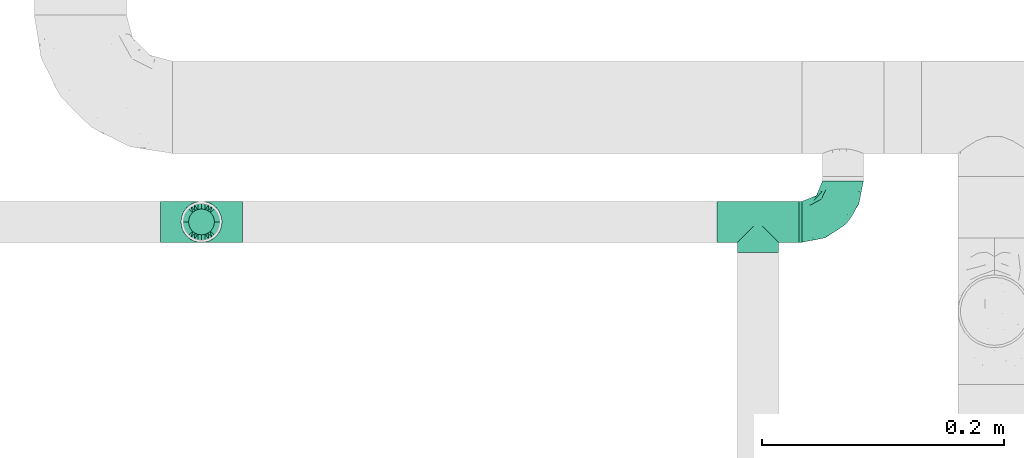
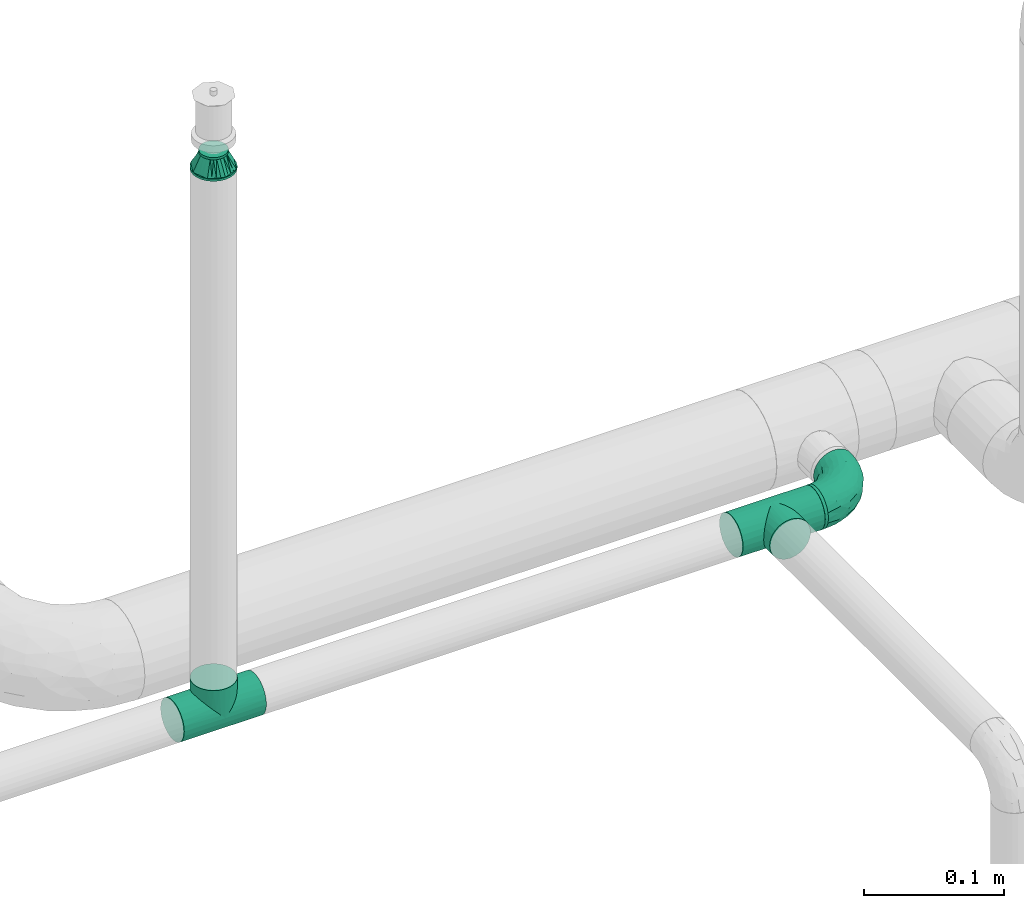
# One storey, part 108 of 157: 4 flow fittings, 1 flow segment.
"""IFC2X3 building model written with IfcOpenShell, lengths in millimetres."""

from ifc_helpers import new_model, entity, si_unit, converted_unit, derived_unit, direction, frame, origin_with_axes, origin_2d_with_axis, place, context, subcontext, project, spatial, hollow_circle, extrude, open_shell, surface_model, source, transform, mapped, type_object, element, save


model = new_model("IFC2X3")

# Units and contexts
model_context = context("Model", 3, precision=0.01, world=frame((0.0, 4.29681676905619e-09, 0.0)), true_north=direction((4.01073788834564e-13, 1.0)))
plan_context = context("Plan", 3, precision=0.01, world=frame((0.0, 4.29681676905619e-09, 0.0)), true_north=direction((4.01073788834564e-13, 1.0)))
body_context = subcontext(model_context, "Body", "Model", "MODEL_VIEW")
ifc_project = project(units=[converted_unit("PLANEANGLEUNIT", "DEGREE", entity("IfcPositiveLengthMeasure", 0.0174532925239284), si_unit("PLANEANGLEUNIT", "RADIAN"), dimensions=[0, 0, 0, 0, 0, 0, 0]), si_unit("AREAUNIT", "SQUARE_METRE"), si_unit("LENGTHUNIT", "METRE", prefix="MILLI"), si_unit("MASSUNIT", "GRAM", prefix="KILO"), si_unit("POWERUNIT", "WATT"), si_unit("PRESSUREUNIT", "PASCAL"), si_unit("FORCEUNIT", "NEWTON", prefix="KILO"), si_unit("ELECTRICCURRENTUNIT", "AMPERE"), si_unit("THERMODYNAMICTEMPERATUREUNIT", "DEGREE_CELSIUS"), si_unit("TIMEUNIT", "SECOND"), si_unit("VOLUMEUNIT", "CUBIC_METRE"), derived_unit("LINEARVELOCITYUNIT", [(si_unit("LENGTHUNIT", "METRE"), 1), (si_unit("TIMEUNIT", "SECOND"), -1)]), derived_unit("VOLUMETRICFLOWRATEUNIT", [(si_unit("VOLUMEUNIT", "CUBIC_METRE"), 1), (si_unit("TIMEUNIT", "SECOND"), -1)]), derived_unit("THERMALTRANSMITTANCEUNIT", [(si_unit("POWERUNIT", "WATT"), 1), (si_unit("THERMODYNAMICTEMPERATUREUNIT", "KELVIN"), -1), (si_unit("AREAUNIT", "SQUARE_METRE"), -1)])], contexts=[model_context, plan_context])

# Site, building, storey
site_placement = place(None, frame((0.0, -4.29681676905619e-09, 0.0), z_axis=(0.0, 0.0, 1.0), x_axis=(1.0, 0.0, 0.0)))
site = spatial("IfcSite", under=ifc_project, at=site_placement, CompositionType="ELEMENT")
building_placement = place(site_placement, frame((0.0, 4.29681676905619e-09, 0.0), z_axis=(0.0, 0.0, 1.0), x_axis=(1.0, 0.0, 0.0)))
building = spatial("IfcBuilding", under=site, at=building_placement, Name="mc-building", CompositionType="ELEMENT")
storey_placement = place(building_placement, frame((0.0, 0.0, 204000.0), z_axis=(0.0, 0.0, 1.0), x_axis=(1.0, 0.0, 0.0)))
storey = spatial("IfcBuildingStorey", under=building, at=storey_placement, Name="Nivå D", CompositionType="ELEMENT", Elevation=204000.0)

# Flow fittings
pipe_fitting_type_1 = type_object("IfcPipeFittingType", Name="magi_pipe_fe_tee_centric_90_NOR", PredefinedType="JUNCTION")
shared_shape_1 = source(origin_with_axes(), body_context, "Body", "SurfaceModel", [
    surface_model("IfcShellBasedSurfaceModel", [(-33.8, 4.37404, -16.32415), (-33.8, 0.0, -16.9), (-33.8, 16.32415, -4.37404), (-33.8, 8.45, -14.63583), (-33.8, 11.9501, -11.9501), (-33.8, 14.63583, -8.45), (-33.8, -16.9, 0.0), (-33.8, -11.9501, -11.9501), (-33.8, -14.63583, -8.45), (-33.8, -8.45, -14.63583), (-33.8, -4.37404, -16.32415), (-33.8, -16.32415, -4.37404), (-33.8, 14.63583, 8.45), (-33.8, 16.32415, 4.37404), (-33.8, -8.45, 14.63583), (-33.8, 8.45, 14.63583), (-33.8, 11.9501, 11.9501), (-33.8, 4.37404, 16.32415), (-33.8, 0.0, 16.9), (-33.8, -11.9501, 11.9501), (-33.8, -14.63583, 8.45), (-33.8, -16.32415, 4.37404), (-33.8, -4.37404, 16.32415), (-33.8, 16.9, 0.0), (33.8, 4.37404, -16.32415), (33.8, -16.9, 0.0), (33.8, 0.0, -16.9), (33.8, 14.63583, -8.45), (33.8, 8.45, -14.63583), (33.8, 16.32415, -4.37404), (33.8, 11.9501, -11.9501), (33.8, -16.32415, 4.37404), (33.8, -8.45, -14.63583), (33.8, -4.37404, -16.32415), (33.8, -11.9501, -11.9501), (33.8, -14.63583, -8.45), (33.8, -16.32415, -4.37404), (33.8, 16.32415, 4.37404), (33.8, 8.45, 14.63583), (33.8, 14.63583, 8.45), (33.8, 11.9501, 11.9501), (33.8, -8.45, 14.63583), (33.8, 4.37404, 16.32415), (33.8, -14.63583, 8.45), (33.8, -11.9501, 11.9501), (33.8, 0.0, 16.9), (33.8, -4.37404, 16.32415), (33.8, 16.9, 0.0), (16.28698, -16.28698, 4.51047), (16.9, -16.9, 0.0), (14.62704, -14.62704, 8.4652), (9.47213, -9.47213, 13.99602), (12.26343, -12.26343, 11.62834), (-16.9, -16.9, 0.0), (-16.28698, -16.28698, 4.51047), (-14.62704, -14.62704, 8.4652), (-12.26343, -12.26343, 11.62834), (-9.47213, -9.47213, 13.99602), (-6.42894, -6.42894, 15.62942), (6.42894, -6.42894, 15.62942), (3.24522, -3.24522, 16.58549), (0.0, 0.0, 16.9), (-3.24522, -3.24522, 16.58549), (3.24522, -3.24522, -16.58549), (0.0, 0.0, -16.9), (-3.24522, -3.24522, -16.58549), (-6.42894, -6.42894, -15.62942), (6.42894, -6.42894, -15.62942), (9.47213, -9.47213, -13.99602), (12.26343, -12.26343, -11.62834), (14.62704, -14.62704, -8.4652), (16.28698, -16.28698, -4.51047), (-9.47213, -9.47213, -13.99602), (-12.26343, -12.26343, -11.62834), (-16.28698, -16.28698, -4.51047), (-14.62704, -14.62704, -8.4652), (4.37404, -25.35, -16.32415), (-16.9, -25.35, 0.0), (0.0, -25.35, -16.9), (14.63583, -25.35, -8.45), (8.45, -25.35, -14.63583), (16.32415, -25.35, -4.37404), (11.9501, -25.35, -11.9501), (-11.9501, -25.35, -11.9501), (-8.45, -25.35, -14.63583), (-4.37404, -25.35, -16.32415), (-14.63583, -25.35, -8.45), (-16.32415, -25.35, -4.37404), (16.9, -25.35, 0.0), (8.45, -25.35, 14.63583), (16.32415, -25.35, 4.37404), (14.63583, -25.35, 8.45), (-8.45, -25.35, 14.63583), (11.9501, -25.35, 11.9501), (4.37404, -25.35, 16.32415), (-16.32415, -25.35, 4.37404), (-11.9501, -25.35, 11.9501), (-14.63583, -25.35, 8.45), (0.0, -25.35, 16.9), (-4.37404, -25.35, 16.32415)], [open_shell([[[0, 1, 2]], [[3, 0, 4]], [[0, 2, 5]], [[4, 0, 5]], [[6, 2, 1]], [[7, 8, 9]], [[1, 10, 9]], [[11, 6, 8]], [[1, 9, 8]], [[1, 8, 6]], [[6, 12, 2]], [[12, 13, 2]], [[14, 12, 6]], [[12, 14, 15]], [[16, 12, 15]], [[17, 15, 18]], [[19, 14, 20]], [[21, 20, 14]], [[22, 18, 14]], [[14, 6, 21]], [[14, 18, 15]], [[23, 2, 13]], [[24, 25, 26]], [[27, 24, 28]], [[27, 29, 24]], [[27, 28, 30]], [[31, 25, 24]], [[26, 32, 33]], [[26, 34, 32]], [[35, 25, 36]], [[35, 34, 26]], [[25, 35, 26]], [[24, 29, 31]], [[29, 37, 38]], [[38, 37, 39]], [[38, 31, 29]], [[38, 39, 40]], [[41, 38, 42]], [[43, 41, 44]], [[41, 43, 31]], [[41, 45, 46]], [[41, 31, 38]], [[42, 45, 41]], [[29, 47, 37]], [[31, 43, 48]], [[25, 31, 49]], [[49, 31, 48]], [[43, 50, 48]], [[44, 41, 51]], [[50, 43, 52]], [[51, 52, 44]], [[52, 43, 44]], [[53, 54, 21]], [[53, 21, 6]], [[21, 54, 20]], [[54, 55, 20]], [[56, 57, 19]], [[19, 20, 56]], [[19, 57, 14]], [[56, 20, 55]], [[14, 57, 58]], [[51, 41, 59]], [[60, 45, 61]], [[59, 46, 60]], [[46, 59, 41]], [[60, 46, 45]], [[61, 45, 42]], [[39, 37, 13]], [[16, 38, 40]], [[12, 40, 39]], [[42, 38, 15]], [[23, 37, 47]], [[62, 61, 18]], [[62, 22, 58]], [[22, 62, 18]], [[58, 22, 14]], [[61, 17, 18]], [[42, 17, 61]], [[15, 17, 42]], [[15, 38, 16]], [[12, 16, 40]], [[13, 12, 39]], [[37, 23, 13]], [[5, 27, 30]], [[23, 47, 29]], [[30, 28, 3]], [[27, 2, 29]], [[26, 33, 63]], [[26, 64, 24]], [[64, 26, 63]], [[28, 24, 0]], [[64, 0, 24]], [[4, 30, 3]], [[2, 27, 5]], [[5, 30, 4]], [[2, 23, 29]], [[65, 66, 10]], [[1, 0, 64]], [[1, 65, 10]], [[66, 9, 10]], [[0, 3, 28]], [[1, 64, 65]], [[63, 33, 67]], [[32, 34, 68]], [[69, 68, 34]], [[35, 70, 69]], [[69, 34, 35]], [[32, 68, 67]], [[36, 25, 49]], [[36, 71, 35]], [[71, 36, 49]], [[35, 71, 70]], [[72, 9, 66]], [[72, 7, 9]], [[7, 72, 73]], [[7, 73, 8]], [[74, 53, 11]], [[75, 74, 8]], [[74, 11, 8]], [[11, 53, 6]], [[75, 8, 73]], [[32, 67, 33]], [[76, 77, 78]], [[79, 76, 80]], [[79, 81, 76]], [[79, 80, 82]], [[77, 76, 81]], [[78, 83, 84]], [[84, 85, 78]], [[86, 77, 87]], [[83, 78, 86]], [[77, 86, 78]], [[81, 88, 77]], [[89, 88, 90]], [[89, 90, 91]], [[92, 77, 89]], [[89, 91, 93]], [[92, 89, 94]], [[95, 96, 97]], [[96, 95, 92]], [[92, 98, 99]], [[95, 77, 92]], [[94, 98, 92]], [[89, 77, 88]], [[77, 95, 53]], [[54, 53, 95]], [[97, 96, 56]], [[96, 92, 57]], [[95, 97, 54]], [[58, 92, 99]], [[55, 54, 97]], [[56, 55, 97]], [[58, 57, 92]], [[98, 61, 62]], [[58, 99, 62]], [[56, 96, 57]], [[62, 99, 98]], [[94, 60, 98]], [[89, 59, 94]], [[91, 90, 48]], [[52, 93, 91]], [[93, 51, 89]], [[49, 90, 88]], [[59, 60, 94]], [[51, 59, 89]], [[49, 48, 90]], [[50, 52, 91]], [[48, 50, 91]], [[51, 93, 52]], [[98, 60, 61]], [[88, 81, 49]], [[71, 49, 81]], [[79, 82, 69]], [[82, 80, 68]], [[81, 79, 71]], [[67, 80, 76]], [[70, 71, 79]], [[69, 70, 79]], [[67, 68, 80]], [[78, 64, 63]], [[67, 76, 63]], [[69, 82, 68]], [[63, 76, 78]], [[85, 65, 78]], [[84, 66, 85]], [[86, 87, 74]], [[86, 73, 83]], [[72, 84, 83]], [[53, 87, 77]], [[66, 65, 85]], [[72, 66, 84]], [[53, 74, 87]], [[75, 73, 86]], [[74, 75, 86]], [[72, 83, 73]], [[78, 65, 64]]])]),
])
for number, where, z_axis, x_axis, name in (
    (1, (524040.35, 413944.735, 2690.0), (0.0, -1.0, 0.0), (-1.0, 0.0, 0.0), "magi_pipe_fe_tee_centric_90_NOR"),
    (2, (524500.0, 413944.735, 2690.0), (0.0, 0.0, -1.0), (-1.0, 0.0, 0.0), "magi_pipe_fe_tee_centric_90_NOR"),
):
    element("IfcFlowFitting", number, at=place(storey_placement, frame(where, z_axis=z_axis, x_axis=x_axis)), inside=storey, type_object=pipe_fitting_type_1, Name=name, context=body_context, shape_type="MappedRepresentation", body=[
        mapped(shared_shape_1, transform((0.0, 0.0, 0.0), scale=1.0)),
    ])
pipe_fitting_type_2 = type_object("IfcPipeFittingType", Name="magi_pipe_fe_elbow_short_001", PredefinedType="BEND")
shared_shape_2 = source(origin_with_axes(), body_context, "Body", "SurfaceModel", [
    surface_model("IfcShellBasedSurfaceModel", [(-33.8, 8.45, -14.63583), (-33.8, 4.37404, -16.32415), (-33.8, 11.9501, -11.9501), (-33.8, -11.9501, -11.9501), (-33.8, -14.63583, -8.45), (-33.8, -8.45, -14.63583), (-33.8, 0.0, -16.9), (-33.8, -4.37404, -16.32415), (-33.8, -4.37404, 16.32415), (-33.8, 0.0, 16.9), (-33.8, -8.45, 14.63583), (-33.8, 16.32415, -4.37404), (-33.8, 14.63583, -8.45), (-33.8, -16.32415, -4.37404), (-33.8, -16.9, 0.0), (-33.8, -16.32415, 4.37404), (-33.8, 11.9501, 11.9501), (-33.8, 14.63583, 8.45), (-33.8, 16.32415, 4.37404), (-33.8, 4.37404, 16.32415), (-33.8, 8.45, 14.63583), (-33.8, -14.63583, 8.45), (-33.8, -11.9501, 11.9501), (-33.8, 16.9, 0.0), (-11.9501, 33.8, -11.9501), (0.0, 33.8, -16.9), (-4.37404, 33.8, -16.32415), (-8.45, 33.8, -14.63583), (-14.63583, 33.8, -8.45), (-16.32415, 33.8, -4.37404), (14.63583, 33.8, -8.45), (8.45, 33.8, 14.63583), (16.32415, 33.8, -4.37404), (8.45, 33.8, -14.63583), (11.9501, 33.8, -11.9501), (4.37404, 33.8, -16.32415), (16.32415, 33.8, 4.37404), (16.9, 33.8, 0.0), (-11.9501, 33.8, 11.9501), (-16.32415, 33.8, 4.37404), (-14.63583, 33.8, 8.45), (-8.45, 33.8, 14.63583), (-4.37404, 33.8, 16.32415), (11.9501, 33.8, 11.9501), (14.63583, 33.8, 8.45), (0.0, 33.8, 16.9), (4.37404, 33.8, 16.32415), (-16.9, 33.8, 0.0), (-24.79389, -13.12945, 9.48721), (-22.19287, -9.75018, 12.59315), (-24.09897, -14.97035, 0.0), (-14.93934, -10.76256, 8.5297), (-22.46095, -14.75051, 5.27077), (14.75051, 22.46094, 5.27077), (11.9251, 13.23888, 4.33236), (13.04069, 14.39795, 0.0), (7.71387, 13.68847, 11.55891), (9.75018, 22.19287, 12.59315), (4.10169, 13.0571, 14.04018), (-24.84007, -6.39063, 15.2048), (-25.81779, -2.23879, 16.61097), (-23.66549, 2.59054, 16.87119), (-26.50418, 14.06512, 11.08152), (-24.21253, 17.66365, 7.72657), (-29.58514, 15.86957, 7.00283), (-6.17382, -7.5455, 0.0), (-13.23888, -11.9251, 4.33236), (-14.39795, -13.04069, 0.0), (-17.81434, 18.87373, 11.97104), (-6.30846, 29.15138, 15.82987), (-2.31622, 25.28002, 16.85849), (-29.23923, 10.23435, 13.77053), (-1.45439, -2.85688, 7.61475), (-0.28326, 0.34872, 10.09509), (-5.74484, -4.04709, 10.4122), (-4.41137, 11.31918, 16.59407), (-8.39727, 3.10034, 15.7812), (-1.72649, 9.1306, 15.53089), (-17.39909, 24.75344, 7.64977), (-26.19233, 20.0512, 0.0), (-28.14518, 17.29657, 4.25857), (-26.05147, 6.6281, 15.96447), (-5.87354, 16.61944, 16.86968), (-12.51807, 12.51807, 16.48937), (-10.06312, 7.38516, 16.81295), (-3.01882, 3.01882, 13.81718), (-13.0571, -4.10169, 14.04018), (-16.82553, -0.15166, 16.38038), (10.76256, 14.93934, 8.5297), (13.12945, 24.79389, 9.48721), (6.39063, 24.84007, 15.2048), (2.23879, 25.81779, 16.61097), (-13.68847, -7.71387, 11.55891), (14.97035, 24.09897, 0.0), (-7.30894, 22.89991, 16.09489), (-10.67958, 26.17414, 14.008), (-12.78295, 18.26924, 15.06066), (-13.88562, 22.45231, 12.93244), (-18.04944, 15.16501, 14.04434), (-23.11658, 20.08178, 4.02986), (-21.84989, 21.84989, 0.0), (-18.55817, 25.48277, 3.93065), (-13.95142, 26.94732, 11.03289), (-18.57098, 7.23906, 16.59756), (-16.58335, 4.14122, 16.89279), (-17.96666, 11.46709, 15.63151), (-9.84453, 17.54304, 16.18938), (0.15166, 16.82553, 16.38038), (-23.27207, 11.47201, 14.23154), (3.84842, 5.86994, 10.70473), (-8.0212, -7.54413, 7.93275), (1.00345, -2.19508, 4.57414), (5.13203, 3.01004, 5.90201), (5.24161, 1.7543, 2.53265), (8.70457, 7.04947, 3.99182), (-20.0512, 26.19233, 0.0), (8.4852, 8.76699, 7.09296), (-4.55488, -6.72064, 4.90681), (2.05031, -2.05031, 0.0), (7.5455, 6.17382, 0.0), (-26.75399, 2.1369, -16.845), (-14.61995, 24.73803, -11.27736), (-28.45274, -13.45335, -9.81895), (-26.00469, 6.63555, -15.96645), (-23.06726, 20.04573, -4.26202), (-13.80647, -4.26506, -14.17873), (-14.67501, -0.21081, -16.07388), (-6.7902, -0.2828, -13.8478), (-24.53586, 11.08096, -14.13417), (-26.72048, 14.00837, -11.05776), (10.0967, 24.44989, -12.75976), (5.83237, 21.40218, -15.03047), (6.66249, 28.54238, -15.38093), (-20.38182, 15.48705, -12.74596), (12.53268, 21.23441, -9.15363), (12.54494, 15.67504, -5.54878), (9.7522, 12.89279, -8.66343), (-15.65186, 19.64213, -13.01327), (-12.03528, 20.66498, -14.67665), (-15.61907, 15.61906, -14.83879), (-25.56551, -15.26206, 0.0), (-24.65452, -15.12934, -5.50955), (13.45335, 28.45274, -9.81895), (15.12934, 24.65452, -5.50955), (-7.35442, -8.31014, -5.65563), (-15.67504, -12.54494, -5.54878), (-24.44989, -10.0967, -12.75976), (0.16522, 0.41303, -9.71728), (-5.70658, -5.33066, -8.89288), (-5.13869, -2.37198, -11.53565), (-21.23441, -12.53268, -9.15363), (0.71146, 7.93863, -14.09382), (0.21081, 14.67501, -16.07388), (3.49291, 14.42772, -14.76381), (-24.89911, -2.13088, -16.591), (-28.54238, -6.66249, -15.38093), (-18.44386, -7.71663, -13.26957), (2.13088, 24.89911, -16.591), (-28.64342, 17.44413, -2.89318), (1.70017, -1.28722, -5.09504), (-16.57067, 26.81947, -7.36596), (-17.69055, 27.4263, -3.76405), (-12.89279, -9.7522, -8.66343), (-5.96611, 5.96611, -15.95814), (-20.53709, 20.09345, -8.28985), (-2.1369, 26.75399, -16.845), (-6.89872, 24.58781, -16.02578), (-10.60739, 26.53157, -13.98044), (-21.40218, -5.83237, -15.03047), (2.93192, 5.89627, -11.55917), (6.89393, 12.61842, -11.82233), (5.58056, 5.95325, -8.79455), (-3.99512, 18.61798, -16.89635), (8.31014, 7.35442, -5.65563), (-9.1383, 9.86148, -16.89041), (-9.99983, 16.02119, -16.39699), (-16.68576, 9.78031, -16.34199), (-27.01915, 16.61158, -7.12979), (15.26206, 25.56551, 0.0), (-18.61798, 3.99512, -16.89635), (-19.37495, 27.82495, 0.0), (-12.61842, -6.89393, -11.82233), (-18.84705, 19.14018, -10.96545)], [open_shell([[[0, 1, 2]], [[3, 4, 5]], [[6, 7, 5]], [[8, 9, 10]], [[1, 6, 2]], [[11, 12, 2]], [[4, 2, 6]], [[2, 13, 10]], [[5, 4, 6]], [[2, 4, 13]], [[14, 15, 13]], [[11, 2, 16]], [[11, 17, 18]], [[11, 16, 17]], [[19, 20, 16]], [[16, 2, 10]], [[19, 16, 10]], [[21, 22, 15]], [[22, 13, 15]], [[22, 10, 13]], [[10, 9, 19]], [[11, 18, 23]], [[24, 25, 26]], [[24, 26, 27]], [[24, 28, 29]], [[25, 24, 30]], [[31, 32, 24]], [[33, 30, 34]], [[33, 35, 25]], [[25, 30, 33]], [[32, 30, 24]], [[32, 36, 37]], [[38, 24, 29]], [[39, 40, 29]], [[40, 38, 29]], [[38, 41, 42]], [[38, 31, 24]], [[31, 38, 42]], [[36, 43, 44]], [[36, 32, 43]], [[31, 45, 46]], [[32, 31, 43]], [[42, 45, 31]], [[39, 29, 47]], [[22, 48, 49]], [[15, 14, 50]], [[51, 48, 52]], [[53, 54, 55]], [[48, 22, 21]], [[15, 52, 21]], [[56, 57, 58]], [[49, 10, 22]], [[49, 59, 10]], [[9, 60, 61]], [[62, 63, 64]], [[65, 66, 67]], [[57, 43, 31]], [[62, 68, 63]], [[42, 69, 70]], [[20, 71, 16]], [[8, 60, 9]], [[72, 73, 74]], [[75, 76, 77]], [[16, 62, 17]], [[40, 39, 78]], [[79, 23, 80]], [[64, 18, 17]], [[9, 61, 19]], [[19, 81, 20]], [[82, 83, 84]], [[74, 85, 86]], [[59, 86, 87]], [[88, 89, 57]], [[90, 31, 46]], [[44, 53, 36]], [[46, 45, 91]], [[54, 53, 88]], [[44, 89, 53]], [[92, 86, 49]], [[89, 44, 43]], [[10, 59, 8]], [[53, 55, 93]], [[93, 36, 53]], [[66, 52, 67]], [[94, 82, 70]], [[95, 96, 94]], [[97, 98, 96]], [[79, 99, 100]], [[41, 38, 95]], [[101, 100, 99]], [[68, 78, 63]], [[42, 41, 69]], [[23, 18, 80]], [[95, 94, 69]], [[78, 101, 99]], [[38, 102, 95]], [[70, 45, 42]], [[97, 95, 102]], [[15, 50, 52]], [[90, 57, 31]], [[57, 90, 58]], [[81, 19, 61]], [[103, 104, 84]], [[105, 81, 103]], [[38, 40, 102]], [[106, 96, 83]], [[94, 106, 82]], [[91, 70, 107]], [[71, 62, 16]], [[62, 108, 98]], [[86, 59, 49]], [[67, 52, 50]], [[60, 59, 87]], [[92, 49, 51]], [[86, 85, 76]], [[91, 90, 46]], [[37, 36, 93]], [[107, 77, 58]], [[107, 58, 90]], [[58, 85, 109]], [[110, 74, 92]], [[72, 74, 110]], [[66, 51, 52]], [[72, 111, 112]], [[113, 114, 112]], [[56, 88, 57]], [[52, 48, 21]], [[49, 48, 51]], [[57, 89, 43]], [[53, 89, 88]], [[103, 81, 61]], [[71, 81, 108]], [[18, 64, 80]], [[63, 78, 99]], [[47, 115, 101]], [[101, 115, 100]], [[40, 78, 102]], [[68, 102, 78]], [[97, 96, 95]], [[105, 98, 108]], [[103, 84, 83]], [[107, 70, 82]], [[76, 84, 87]], [[82, 84, 75]], [[70, 91, 45]], [[90, 91, 107]], [[59, 60, 8]], [[61, 60, 87]], [[73, 85, 74]], [[109, 112, 116]], [[103, 61, 104]], [[105, 103, 83]], [[96, 105, 83]], [[81, 105, 108]], [[96, 98, 105]], [[62, 98, 68]], [[61, 87, 104]], [[87, 84, 104]], [[86, 76, 87]], [[77, 76, 85]], [[58, 77, 85]], [[75, 77, 107]], [[82, 75, 107]], [[76, 75, 84]], [[81, 71, 20]], [[62, 71, 108]], [[95, 69, 41]], [[70, 69, 94]], [[62, 64, 17]], [[80, 63, 99]], [[63, 80, 64]], [[80, 99, 79]], [[66, 65, 117]], [[110, 66, 117]], [[112, 114, 116]], [[118, 117, 65]], [[110, 92, 51]], [[112, 111, 113]], [[119, 55, 54]], [[74, 86, 92]], [[58, 109, 56]], [[116, 56, 109]], [[66, 110, 51]], [[72, 110, 117]], [[111, 72, 117]], [[73, 112, 109]], [[117, 118, 111]], [[113, 111, 118]], [[118, 119, 113]], [[114, 119, 54]], [[119, 114, 113]], [[116, 54, 88]], [[54, 116, 114]], [[116, 88, 56]], [[112, 73, 72]], [[85, 73, 109]], [[78, 39, 101]], [[47, 101, 39]], [[102, 68, 97]], [[97, 68, 98]], [[82, 106, 83]], [[94, 96, 106]], [[1, 120, 6]], [[28, 24, 121]], [[3, 122, 4]], [[0, 123, 1]], [[100, 124, 79]], [[125, 126, 127]], [[128, 2, 129]], [[130, 131, 132]], [[128, 129, 133]], [[134, 135, 136]], [[137, 138, 139]], [[128, 0, 2]], [[67, 140, 141]], [[134, 142, 143]], [[141, 13, 4]], [[144, 65, 145]], [[146, 3, 5]], [[147, 148, 149]], [[145, 141, 150]], [[151, 152, 153]], [[154, 7, 6]], [[5, 155, 146]], [[150, 146, 156]], [[155, 5, 7]], [[143, 135, 134]], [[35, 157, 25]], [[23, 79, 158]], [[148, 159, 144]], [[160, 161, 29]], [[145, 162, 144]], [[163, 152, 151]], [[29, 28, 160]], [[121, 164, 160]], [[33, 34, 130]], [[25, 165, 26]], [[26, 165, 166]], [[142, 34, 30]], [[24, 27, 167]], [[124, 161, 164]], [[157, 35, 132]], [[155, 154, 168]], [[123, 0, 128]], [[169, 170, 171]], [[172, 157, 152]], [[26, 166, 27]], [[132, 35, 33]], [[142, 130, 34]], [[168, 154, 126]], [[136, 135, 173]], [[133, 137, 139]], [[2, 12, 129]], [[170, 131, 130]], [[30, 32, 143]], [[172, 174, 175]], [[176, 123, 128]], [[158, 177, 11]], [[135, 55, 119]], [[167, 27, 166]], [[175, 166, 172]], [[137, 167, 138]], [[122, 141, 4]], [[140, 14, 13]], [[32, 37, 178]], [[170, 130, 134]], [[152, 157, 131]], [[165, 157, 172]], [[153, 170, 151]], [[152, 163, 174]], [[168, 125, 156]], [[122, 146, 150]], [[120, 154, 6]], [[179, 174, 126]], [[179, 126, 154]], [[126, 163, 127]], [[162, 145, 150]], [[140, 13, 141]], [[32, 178, 143]], [[55, 143, 178]], [[177, 129, 12]], [[128, 133, 139]], [[176, 128, 139]], [[120, 123, 179]], [[121, 160, 28]], [[161, 100, 180]], [[166, 175, 138]], [[121, 24, 167]], [[161, 47, 29]], [[79, 124, 158]], [[124, 164, 177]], [[161, 124, 100]], [[136, 171, 170]], [[127, 163, 151]], [[147, 171, 159]], [[148, 144, 162]], [[127, 151, 169]], [[127, 181, 125]], [[129, 177, 164]], [[12, 11, 177]], [[159, 65, 144]], [[67, 141, 145]], [[143, 55, 135]], [[135, 119, 173]], [[123, 120, 1]], [[154, 120, 179]], [[157, 165, 25]], [[166, 165, 172]], [[172, 152, 174]], [[176, 139, 175]], [[126, 174, 163]], [[176, 174, 179]], [[174, 176, 175]], [[123, 176, 179]], [[150, 181, 162]], [[127, 149, 181]], [[181, 148, 162]], [[159, 148, 147]], [[171, 136, 173]], [[170, 134, 136]], [[159, 171, 173]], [[171, 147, 169]], [[169, 147, 149]], [[151, 170, 169]], [[164, 182, 129]], [[182, 121, 137]], [[181, 149, 148]], [[169, 149, 127]], [[182, 137, 133]], [[167, 137, 121]], [[166, 138, 167]], [[175, 139, 138]], [[129, 182, 133]], [[121, 182, 164]], [[161, 160, 164]], [[47, 161, 180]], [[177, 158, 124]], [[23, 158, 11]], [[130, 132, 33]], [[157, 132, 131]], [[143, 142, 30]], [[130, 142, 134]], [[154, 155, 7]], [[146, 155, 168]], [[146, 122, 3]], [[141, 122, 150]], [[152, 131, 153]], [[159, 119, 118]], [[67, 145, 65]], [[170, 153, 131]], [[119, 159, 173]], [[159, 118, 65]], [[156, 125, 181]], [[126, 125, 168]], [[150, 156, 181]], [[168, 156, 146]]])]),
])
flow_fitting_1_placement = place(storey_placement, frame((524570.18066, 413944.735, 2690.0), z_axis=(0.0, 0.0, 1.0), x_axis=(1.0, 0.0, 0.0)))
element("IfcFlowFitting", 3, at=flow_fitting_1_placement, inside=storey, type_object=pipe_fitting_type_2, Name="magi_pipe_fe_elbow_short_001", context=body_context, shape_type="MappedRepresentation", body=[
    mapped(shared_shape_2, transform((0.0, 0.0, 0.0), scale=1.0)),
])
pipe_fitting_type_3 = type_object("IfcPipeFittingType", Name="magi_pipe_fe_reducer_centric_short_NOR", PredefinedType="TRANSITION")
shared_shape_3 = source(origin_with_axes(), body_context, "Body", "SurfaceModel", [
    surface_model("IfcShellBasedSurfaceModel", [(-2.0, -7.56604, -7.56604), (-2.0, -10.33541, -2.76936), (-2.0, -5.35, -9.26647), (-2.0, 5.35, -9.26647), (-2.0, 10.33541, -2.76936), (-2.0, 7.56604, -7.56604), (12.4, 11.9501, 11.9501), (12.4, 0.0, 16.9), (12.4, 11.9501, -11.9501), (12.4, 16.9, 0.0), (0.0, -10.7, 0.0), (0.0, -5.35, 9.26647), (0.0, -5.35, -9.26647), (0.0, 10.7, 0.0), (12.4, 15.66253, -2.98753), (12.4, 8.96258, -13.18758), (0.0, 6.6875, -6.94985), (12.4, -15.66253, -2.98753), (12.4, -16.9, 0.0), (12.4, 5.97505, -14.42505), (0.0, 5.35, -9.26647), (12.4, 14.42505, -5.97505), (0.0, 8.025, -4.63324), (0.0, 9.3625, -2.31662), (0.0, -9.3625, -2.31662), (0.0, -8.025, -4.63324), (12.4, -14.42505, -5.97505), (12.4, 13.18758, -8.96258), (12.4, -13.18758, -8.96258), (12.4, -11.9501, -11.9501), (0.0, -6.6875, -6.94985), (12.4, -8.96258, -13.18758), (12.4, -5.97505, -14.42505), (12.4, -15.66253, 2.98753), (12.4, -8.96258, 13.18758), (0.0, -6.6875, 6.94985), (12.4, -11.9501, 11.9501), (12.4, 15.66253, 2.98753), (12.4, -5.97505, 14.42505), (12.4, -14.42505, 5.97505), (0.0, -8.025, 4.63324), (0.0, -9.3625, 2.31662), (0.0, 9.3625, 2.31662), (0.0, 8.025, 4.63324), (12.4, 14.42505, 5.97505), (12.4, -13.18758, 8.96258), (12.4, 13.18758, 8.96258), (0.0, 6.6875, 6.94985), (12.4, 8.96258, 13.18758), (0.0, 5.35, 9.26647), (12.4, 5.97505, 14.42505), (14.4, 4.37404, -16.32415), (14.4, 8.45, -14.63583), (14.4, 11.9501, -11.9501), (14.4, -8.45, -14.63583), (14.4, 16.32415, -4.37404), (14.4, 16.32415, 4.37404), (14.4, 14.63583, -8.45), (14.4, 0.0, -16.9), (14.4, -4.37404, -16.32415), (14.4, -11.9501, -11.9501), (14.4, -16.32415, -4.37404), (14.4, -14.63583, -8.45), (14.4, -16.32415, 4.37404), (14.4, 16.9, 0.0), (14.4, 14.63583, 8.45), (14.4, 11.9501, 11.9501), (14.4, 4.37404, 16.32415), (14.4, 8.45, 14.63583), (14.4, 0.0, 16.9), (14.4, -14.63583, 8.45), (14.4, -16.9, 0.0), (14.4, -8.45, 14.63583), (14.4, -11.9501, 11.9501), (14.4, -4.37404, 16.32415), (12.4, 4.37404, 16.32415), (12.4, -14.63583, 8.45), (12.4, 16.32415, 4.37404), (12.4, 8.45, 14.63583), (12.4, 14.63583, 8.45), (12.4, -8.45, 14.63583), (12.4, -4.37404, 16.32415), (12.4, -16.32415, 4.37404), (12.4, -16.32415, -4.37404), (12.4, -8.45, -14.63583), (12.4, 16.32415, -4.37404), (12.4, 14.63583, -8.45), (12.4, 8.45, -14.63583), (12.4, 4.37404, -16.32415), (12.4, 0.0, -16.9), (12.4, -14.63583, -8.45), (12.4, -4.37404, -16.32415), (-2.0, 2.76936, 10.33541), (-2.0, 0.0, 10.7), (-2.0, 5.35, 9.26647), (-2.0, 7.56604, 7.56604), (-2.0, 9.26647, 5.35), (-2.0, 10.33541, 2.76936), (-2.0, -10.33541, 2.76936), (-2.0, -2.76936, 10.33541), (-2.0, -7.56604, 7.56604), (-2.0, -5.35, 9.26647), (-2.0, -9.26647, 5.35), (-2.0, -10.7, 0.0), (-2.0, 9.26647, -5.35), (-2.0, 2.76936, -10.33541), (-2.0, -9.26647, -5.35), (-2.0, 0.0, -10.7), (-2.0, -2.76936, -10.33541), (-2.0, 10.7, 0.0), (0.0, 0.0, -10.7), (0.0, 2.76936, -10.33541), (0.0, 10.33541, -2.76936), (0.0, 7.56604, -7.56604), (0.0, -10.33541, -2.76936), (0.0, 9.26647, -5.35), (0.0, 0.0, 10.7), (0.0, -2.76936, -10.33541), (0.0, -7.56604, -7.56604), (0.0, -9.26647, -5.35), (0.0, 10.33541, 2.76936), (0.0, 9.26647, 5.35), (0.0, 7.56604, 7.56604), (0.0, 2.76936, 10.33541), (0.0, -7.56604, 7.56604), (0.0, -10.33541, 2.76936), (0.0, -9.26647, 5.35), (0.0, -2.76936, 10.33541), (0.0, 2.675, -9.26647), (0.0, -2.675, -9.26647), (12.4, 2.98753, -15.66253), (0.0, 0.0, -9.26647), (12.4, -2.98753, -15.66253), (0.0, -2.675, 9.26647), (0.0, 2.675, 9.26647), (12.4, -2.98753, 15.66253), (0.0, 0.0, 9.26647), (12.4, 2.98753, 15.66253)], [open_shell([[[0, 1, 2]], [[3, 4, 5]], [[6, 7, 8]], [[8, 9, 6]], [[10, 11, 12]], [[13, 9, 14]], [[15, 16, 8]], [[17, 18, 10]], [[15, 19, 20]], [[21, 22, 23]], [[24, 25, 26]], [[22, 21, 27]], [[28, 26, 25]], [[29, 30, 31]], [[12, 32, 31]], [[10, 18, 33]], [[34, 35, 36]], [[37, 9, 13]], [[34, 38, 11]], [[39, 40, 41]], [[42, 43, 44]], [[40, 39, 45]], [[46, 44, 43]], [[6, 47, 48]], [[49, 50, 48]], [[51, 52, 53]], [[54, 51, 53]], [[53, 55, 56]], [[55, 53, 57]], [[53, 56, 54]], [[58, 54, 59]], [[58, 51, 54]], [[60, 61, 62]], [[61, 60, 54]], [[54, 63, 61]], [[56, 55, 64]], [[56, 65, 66]], [[56, 66, 67]], [[67, 63, 54]], [[67, 66, 68]], [[63, 67, 69]], [[69, 70, 63]], [[71, 61, 63]], [[70, 72, 73]], [[70, 69, 72]], [[72, 69, 74]], [[54, 56, 67]], [[75, 76, 7]], [[77, 75, 78]], [[6, 79, 77]], [[6, 77, 78]], [[76, 75, 77]], [[80, 76, 36]], [[80, 81, 7]], [[7, 76, 80]], [[82, 76, 77]], [[82, 83, 18]], [[82, 77, 84]], [[77, 85, 8]], [[8, 85, 86]], [[8, 87, 88]], [[84, 77, 8]], [[88, 89, 8]], [[83, 29, 90]], [[29, 83, 84]], [[84, 89, 91]], [[83, 82, 84]], [[8, 89, 84]], [[85, 77, 9]], [[83, 61, 18]], [[90, 62, 83]], [[54, 29, 84]], [[90, 29, 60]], [[59, 84, 91]], [[83, 62, 61]], [[61, 71, 18]], [[59, 54, 84]], [[60, 29, 54]], [[60, 62, 90]], [[58, 59, 91]], [[91, 89, 58]], [[88, 51, 89]], [[87, 52, 88]], [[57, 8, 86]], [[87, 8, 53]], [[55, 86, 85]], [[87, 53, 52]], [[52, 51, 88]], [[64, 55, 85]], [[57, 86, 55]], [[57, 53, 8]], [[9, 64, 85]], [[89, 51, 58]], [[77, 56, 9]], [[79, 65, 77]], [[68, 6, 78]], [[79, 6, 66]], [[67, 78, 75]], [[77, 65, 56]], [[56, 64, 9]], [[67, 68, 78]], [[66, 6, 68]], [[66, 65, 79]], [[69, 67, 75]], [[75, 7, 69]], [[81, 74, 7]], [[80, 72, 81]], [[70, 36, 76]], [[80, 36, 73]], [[63, 76, 82]], [[80, 73, 72]], [[72, 74, 81]], [[71, 63, 82]], [[70, 76, 63]], [[70, 73, 36]], [[18, 71, 82]], [[7, 74, 69]], [[92, 1, 93]], [[94, 1, 92]], [[95, 96, 97]], [[95, 97, 94]], [[98, 93, 1]], [[99, 100, 101]], [[99, 93, 100]], [[100, 98, 102]], [[93, 98, 100]], [[98, 1, 103]], [[94, 97, 1]], [[1, 97, 4]], [[5, 4, 104]], [[4, 3, 1]], [[105, 1, 3]], [[1, 0, 106]], [[2, 107, 108]], [[2, 1, 105]], [[105, 107, 2]], [[4, 97, 109]], [[20, 110, 111]], [[112, 20, 113]], [[114, 20, 112]], [[112, 113, 115]], [[116, 114, 112]], [[110, 12, 117]], [[110, 20, 12]], [[118, 114, 119]], [[114, 118, 12]], [[20, 114, 12]], [[112, 13, 120]], [[120, 121, 122]], [[120, 122, 123]], [[116, 112, 123]], [[123, 122, 49]], [[116, 124, 114]], [[125, 124, 126]], [[10, 114, 125]], [[124, 127, 11]], [[125, 114, 124]], [[127, 124, 116]], [[123, 112, 120]], [[1, 114, 103]], [[106, 119, 1]], [[12, 0, 2]], [[106, 0, 118]], [[117, 2, 108]], [[1, 119, 114]], [[114, 10, 103]], [[117, 12, 2]], [[118, 0, 12]], [[118, 119, 106]], [[110, 117, 108]], [[108, 107, 110]], [[105, 111, 107]], [[3, 20, 105]], [[115, 5, 104]], [[3, 5, 113]], [[112, 104, 4]], [[3, 113, 20]], [[20, 111, 105]], [[13, 112, 4]], [[115, 104, 112]], [[115, 113, 5]], [[109, 13, 4]], [[107, 111, 110]], [[97, 120, 109]], [[96, 121, 97]], [[49, 95, 94]], [[96, 95, 122]], [[123, 94, 92]], [[97, 121, 120]], [[120, 13, 109]], [[123, 49, 94]], [[122, 95, 49]], [[122, 121, 96]], [[116, 123, 92]], [[92, 93, 116]], [[99, 127, 93]], [[101, 11, 99]], [[126, 100, 102]], [[101, 100, 124]], [[125, 102, 98]], [[101, 124, 11]], [[11, 127, 99]], [[10, 125, 98]], [[126, 102, 125]], [[126, 124, 100]], [[103, 10, 98]], [[93, 127, 116]], [[18, 7, 36]], [[18, 29, 8]], [[89, 8, 29]], [[18, 8, 7]], [[13, 11, 49]], [[13, 20, 12]], [[13, 12, 11]], [[24, 26, 17]], [[10, 24, 17]], [[16, 15, 20]], [[30, 12, 31]], [[23, 14, 21]], [[19, 128, 20]], [[27, 8, 16]], [[32, 12, 129]], [[30, 28, 25]], [[130, 131, 128]], [[129, 132, 32]], [[16, 22, 27]], [[13, 14, 23]], [[128, 19, 130]], [[130, 89, 131]], [[131, 132, 129]], [[89, 132, 131]], [[28, 30, 29]], [[42, 44, 37]], [[13, 42, 37]], [[35, 34, 11]], [[47, 49, 48]], [[41, 33, 39]], [[38, 133, 11]], [[45, 36, 35]], [[50, 49, 134]], [[47, 46, 43]], [[135, 136, 133]], [[134, 137, 50]], [[35, 40, 45]], [[10, 33, 41]], [[133, 38, 135]], [[135, 7, 136]], [[136, 137, 134]], [[7, 137, 136]], [[46, 47, 6]]])]),
])
flow_fitting_2_placement = place(storey_placement, frame((524040.35, 413944.735, 3172.54800000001), z_axis=(0.0, -1.0, 0.0), x_axis=(0.0, 0.0, -1.0)))
element("IfcFlowFitting", 4, at=flow_fitting_2_placement, inside=storey, type_object=pipe_fitting_type_3, Name="magi_pipe_fe_reducer_centric_short_NOR", context=body_context, shape_type="MappedRepresentation", body=[
    mapped(shared_shape_3, transform((0.0, 0.0, 0.0), scale=1.0)),
])

# Flow segment
pipe_segment_type = type_object("IfcPipeSegmentType", Name="Stålrør normaltykke", PredefinedType="RIGIDSEGMENT")
shared_shape_4 = source(origin_with_axes(), body_context, "Body", "SweptSolid", [
    extrude(hollow_circle(Radius=16.9, WallThickness=2.0, at=origin_2d_with_axis()), frame((0.0, 0.0, 0.0), z_axis=(1.0, 0.0, 0.0), x_axis=(0.0, 1.0, 0.0)), (0.0, 0.0, 1.0), 2.6),
])
flow_segment_placement = place(storey_placement, frame((524533.8, 413944.735, 2690.0), z_axis=(0.0, 0.0, 1.0), x_axis=(1.0, 0.0, 0.0)))
element("IfcFlowSegment", 5, at=flow_segment_placement, inside=storey, type_object=pipe_segment_type, Name="Stålrør normaltykke", context=body_context, shape_type="MappedRepresentation", body=[
    mapped(shared_shape_4, transform((0.0, 0.0, 0.0), scale=1.0)),
])

save(model, "model.ifc")
